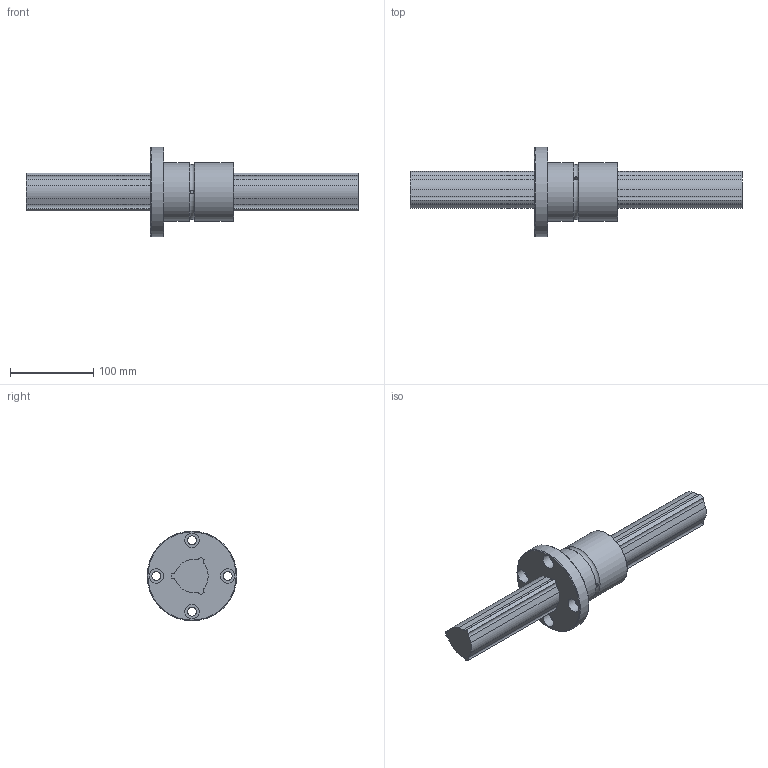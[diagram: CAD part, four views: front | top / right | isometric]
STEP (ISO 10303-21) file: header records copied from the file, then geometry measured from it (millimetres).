
FILE_DESCRIPTION(/* description */ ('STEP AP203'),/* implementation_level */ '2;1');
FILE_NAME(/* name */ 'LBF50+400L(4001500)',/* time_stamp */ '2024-05-28T03:40:51+02:00',/* author */ ('License CC BY-ND 4.0'),/* organization */ ('CADENAS'),/* preprocessor_version */ 'ST-DEVELOPER v19.3',/* originating_system */ 'PARTsolutions',/* authorisation */ ' ');
FILE_SCHEMA (('CONFIG_CONTROL_DESIGN'));
Length unit declared in the file: millimetre
Products named in the file (3): LBF50+400L(4001500); LBF501400 Spline Shaft; LBF50 Nut
Assembly tree (2 placements, depth 2):
  LBF50+400L(4001500)
    LBF501400 Spline Shaft
    LBF50 Nut
Bounding box: 400 x 108 x 108 mm (x, y, z)
Volume: 855715.4 mm3; surface area: 116602.2 mm2
Topology: 2 solids, 2 shells, 66 faces, 165 edges, 111 vertices
Faces by surface type: cylinder 38, plane 24, torus 2, cone 2
Full cylindrical faces by diameter (mm): 4 x3, 11 x4, 17.5 x4, 70 x2, 108 x1
Entity records: 1978 total; most frequent: CARTESIAN_POINT 353, DIRECTION 350, ORIENTED_EDGE 278, AXIS2_PLACEMENT_3D 145, EDGE_CURVE 139, VERTEX_POINT 103, EDGE_LOOP 102, FACE_BOUND 102
